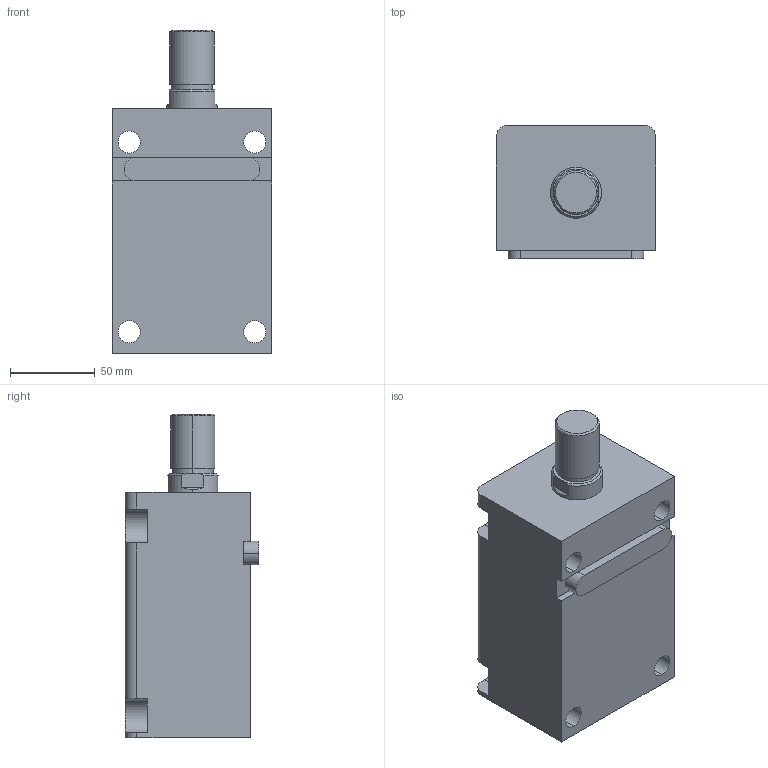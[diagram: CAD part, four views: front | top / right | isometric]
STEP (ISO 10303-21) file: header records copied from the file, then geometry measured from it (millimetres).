
FILE_DESCRIPTION (( 'STEP AP203' ), '1' );
FILE_NAME ('HTB-LA50-85W.STEP', '2019-10-09T07:13:17', ( '微软用户' ), ( '微软中国' ), 'SwSTEP 2.0', 'SolidWorks 2012', '' );
FILE_SCHEMA (( 'CONFIG_CONTROL_DESIGN' ));
Length unit declared in the file: millimetre
Products named in the file (4): HTB-LA50-85掛极; HTB-LA50-85W活塞杆; HTB-LA50-瑩; HTB-LA50-85W
Assembly tree (3 placements, depth 2):
  HTB-LA50-85W
    HTB-LA50-85掛极
    HTB-LA50-85W活塞杆
    HTB-LA50-瑩
Bounding box: 94 x 79 x 191 mm (x, y, z)
Volume: 876273.5 mm3; surface area: 121246.8 mm2
Topology: 3 solids, 3 shells, 90 faces, 219 edges, 144 vertices
Faces by surface type: plane 41, cylinder 37, cone 8, torus 4
Entity records: 3107 total; most frequent: DIRECTION 497, CARTESIAN_POINT 487, ORIENTED_EDGE 438, EDGE_CURVE 219, AXIS2_PLACEMENT_3D 190, VERTEX_POINT 144, VECTOR 117, LINE 117
